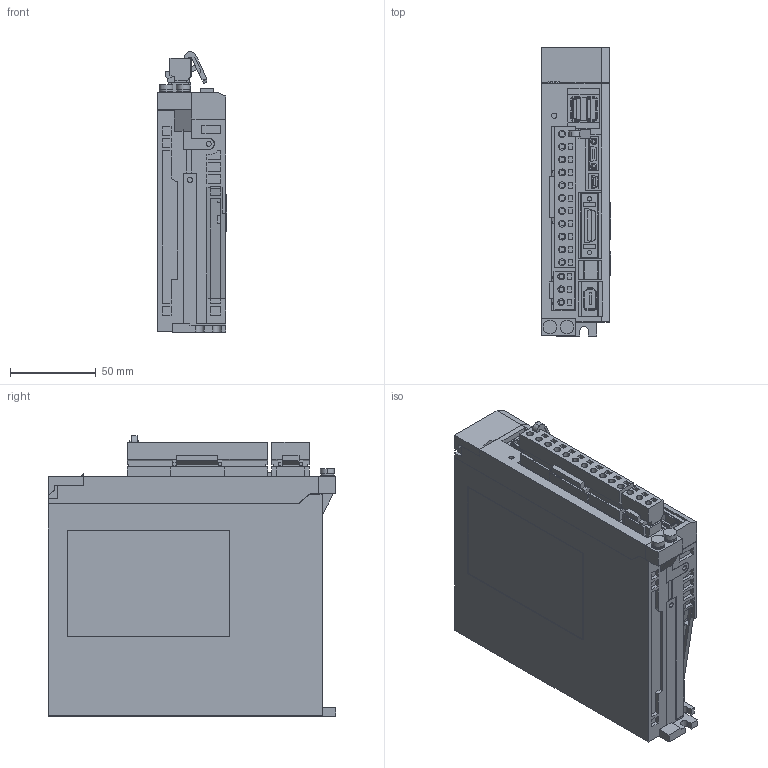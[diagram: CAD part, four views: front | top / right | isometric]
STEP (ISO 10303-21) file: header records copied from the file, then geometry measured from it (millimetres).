
FILE_DESCRIPTION (( 'STEP AP203' ), '1' );
FILE_NAME ('sgd7s_1r6a10a.STEP', '2014-03-06T04:29:28', ( '匠エンジニアリング山之内' ), ( 'TAKUMI-Engniaring' ), 'SwSTEP 2.0', 'SolidWorks 2006303', '' );
FILE_SCHEMA (( 'CONFIG_CONTROL_DESIGN' ));
Products named in the file (9): sgd7s_1r6a10a_connector_2; sgd7s_1r6a10a_connector_3; sgd7s_1r6a10a; sgd7s_1r6a10a_base; sgd7s_1r6a10a_connector; sgd7s_1r6a10a_pin; sgd7s_1r6a10a_connector_1; sgd7s_1r6a10a_cover; sgd7s_1r6a10a_cover2
Assembly tree (9 placements, depth 3):
  sgd7s_1r6a10a
    sgd7s_1r6a10a_base
    sgd7s_1r6a10a_connector
      sgd7s_1r6a10a_connector_2
      sgd7s_1r6a10a_pin
    sgd7s_1r6a10a_connector_1
    sgd7s_1r6a10a_cover2  x2
    sgd7s_1r6a10a_connector_3
    sgd7s_1r6a10a_cover
Bounding box: 40.5 x 168 x 163.83 mm (x, y, z)
Volume: 830570.3 mm3; surface area: 130297.9 mm2
Topology: 8 solids, 8 shells, 1687 faces, 4488 edges, 2957 vertices
Faces by surface type: plane 1543, cylinder 139, cone 4, sphere 1
Entity records: 51847 total; most frequent: CARTESIAN_POINT 9034, ORIENTED_EDGE 8868, DIRECTION 8082, EDGE_CURVE 4434, LINE 4144, VECTOR 4144, VERTEX_POINT 2921, AXIS2_PLACEMENT_3D 1969
